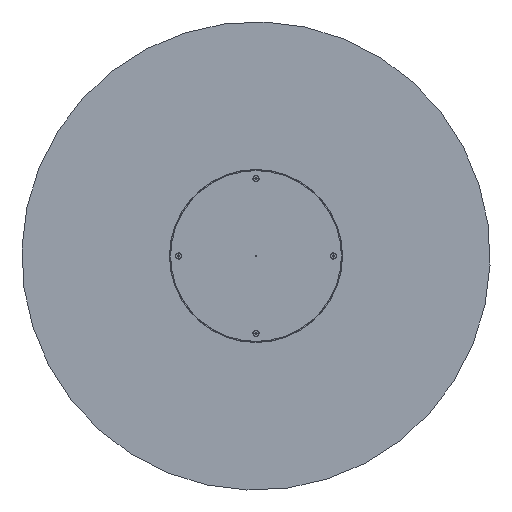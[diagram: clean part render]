
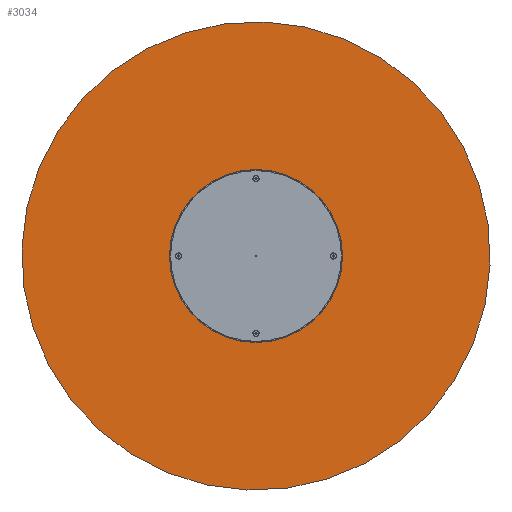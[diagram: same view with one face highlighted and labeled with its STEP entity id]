
A CAD part, front view. The second image highlights one B-rep face of the part: STEP entity #3034.
In plain terms, the highlighted planar face has unit normal (0, -1, 0).
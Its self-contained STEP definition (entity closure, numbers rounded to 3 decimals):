
#489 = EDGE_LOOP ( 'NONE', ( #16172, #11295 ) ) ;
#558 = PLANE ( 'NONE',  #12516 ) ;
#1915 = CARTESIAN_POINT ( 'NONE',  ( 0., 0., 0. ) ) ;
#3034 = ADVANCED_FACE ( 'NONE', ( #16418 ), #558, .T. ) ;
#3285 = DIRECTION ( 'NONE',  ( 0., -1., 0. ) ) ;
#5805 = EDGE_CURVE ( 'NONE', #11573, #9163, #13889, .T. ) ;
#7285 = AXIS2_PLACEMENT_3D ( 'NONE', #8037, #14475, #15902 ) ;
#8037 = CARTESIAN_POINT ( 'NONE',  ( 0., 0., 0. ) ) ;
#8244 = CARTESIAN_POINT ( 'NONE',  ( 0., 0., 0. ) ) ;
#8458 = DIRECTION ( 'NONE',  ( 0., 0., -1. ) ) ;
#8491 = DIRECTION ( 'NONE',  ( 0., -1., 0. ) ) ;
#9163 = VERTEX_POINT ( 'NONE', #10405 ) ;
#9819 = AXIS2_PLACEMENT_3D ( 'NONE', #8244, #8491, #15943 ) ;
#10405 = CARTESIAN_POINT ( 'NONE',  ( 0., 0., -650. ) ) ;
#11295 = ORIENTED_EDGE ( 'NONE', *, *, #5805, .T. ) ;
#11573 = VERTEX_POINT ( 'NONE', #14603 ) ;
#12359 = EDGE_CURVE ( 'NONE', #9163, #11573, #12417, .T. ) ;
#12417 = CIRCLE ( 'NONE', #7285, 650. ) ;
#12516 = AXIS2_PLACEMENT_3D ( 'NONE', #1915, #3285, #8458 ) ;
#13889 = CIRCLE ( 'NONE', #9819, 650. ) ;
#14475 = DIRECTION ( 'NONE',  ( 0., -1., 0. ) ) ;
#14603 = CARTESIAN_POINT ( 'NONE',  ( 0., 0., 650. ) ) ;
#15902 = DIRECTION ( 'NONE',  ( 0., 0., -1. ) ) ;
#15943 = DIRECTION ( 'NONE',  ( 0., 0., -1. ) ) ;
#16172 = ORIENTED_EDGE ( 'NONE', *, *, #12359, .T. ) ;
#16418 = FACE_OUTER_BOUND ( 'NONE', #489, .T. ) ;
